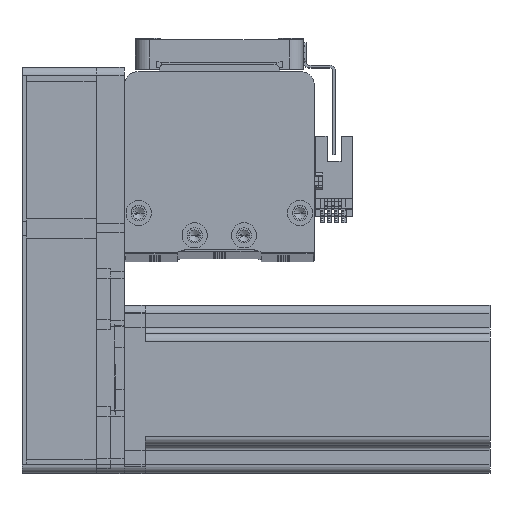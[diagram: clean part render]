
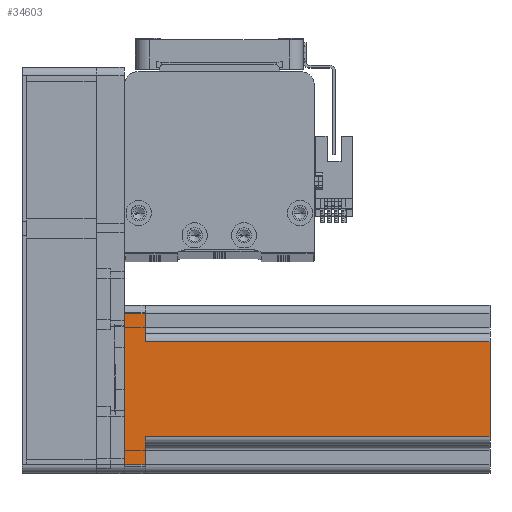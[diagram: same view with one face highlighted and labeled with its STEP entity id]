
A CAD part, top view. The second image highlights one B-rep face of the part: STEP entity #34603.
In plain terms, the highlighted planar face has unit normal (0, 0, 1) as drawn and (0, -1, 0) by its records, which use the part's own axes.
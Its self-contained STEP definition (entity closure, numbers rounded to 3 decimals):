
#228 = VECTOR ( 'NONE', #13810, 1000. ) ;
#503 = AXIS2_PLACEMENT_3D ( 'NONE', #20739, #49823, #24947 ) ;
#1489 = VERTEX_POINT ( 'NONE', #29872 ) ;
#1557 = LINE ( 'NONE', #26160, #228 ) ;
#1898 = EDGE_CURVE ( 'NONE', #30522, #23538, #22322, .T. ) ;
#3154 = ORIENTED_EDGE ( 'NONE', *, *, #1898, .T. ) ;
#5367 = EDGE_CURVE ( 'NONE', #23538, #10179, #46167, .T. ) ;
#6621 = EDGE_CURVE ( 'NONE', #10179, #21501, #23204, .T. ) ;
#7150 = CARTESIAN_POINT ( 'NONE',  ( -17., -30., 7.5 ) ) ;
#9034 = VECTOR ( 'NONE', #31657, 1000. ) ;
#10179 = VERTEX_POINT ( 'NONE', #36930 ) ;
#10858 = CARTESIAN_POINT ( 'NONE',  ( 17., -30., 130.7 ) ) ;
#11373 = EDGE_LOOP ( 'NONE', ( #25125, #21378, #27922, #3154, #45380, #21827, #12976, #45773 ) ) ;
#12122 = VECTOR ( 'NONE', #51561, 1000. ) ;
#12976 = ORIENTED_EDGE ( 'NONE', *, *, #27586, .T. ) ;
#13099 = CARTESIAN_POINT ( 'NONE',  ( 30., -30., 0. ) ) ;
#13810 = DIRECTION ( 'NONE',  ( 1., 0., 0. ) ) ;
#13936 = EDGE_CURVE ( 'NONE', #49610, #46291, #30014, .T. ) ;
#14266 = VECTOR ( 'NONE', #34191, 1000. ) ;
#16669 = CARTESIAN_POINT ( 'NONE',  ( -27., -30., 0. ) ) ;
#17151 = FACE_OUTER_BOUND ( 'NONE', #11373, .T. ) ;
#17634 = CARTESIAN_POINT ( 'NONE',  ( 27., -30., 7.5 ) ) ;
#18862 = LINE ( 'NONE', #40749, #50711 ) ;
#20739 = CARTESIAN_POINT ( 'NONE',  ( 30., -30., 130.7 ) ) ;
#21378 = ORIENTED_EDGE ( 'NONE', *, *, #49207, .T. ) ;
#21501 = VERTEX_POINT ( 'NONE', #17634 ) ;
#21827 = ORIENTED_EDGE ( 'NONE', *, *, #6621, .T. ) ;
#22322 = LINE ( 'NONE', #32718, #32076 ) ;
#23204 = LINE ( 'NONE', #26524, #12122 ) ;
#23305 = DIRECTION ( 'NONE',  ( 0., 0., 1. ) ) ;
#23538 = VERTEX_POINT ( 'NONE', #16669 ) ;
#24947 = DIRECTION ( 'NONE',  ( -1., 0., 0. ) ) ;
#25125 = ORIENTED_EDGE ( 'NONE', *, *, #38245, .F. ) ;
#26160 = CARTESIAN_POINT ( 'NONE',  ( -20., -30., 7.5 ) ) ;
#26524 = CARTESIAN_POINT ( 'NONE',  ( 27., -30., 130.7 ) ) ;
#27390 = VERTEX_POINT ( 'NONE', #7150 ) ;
#27586 = EDGE_CURVE ( 'NONE', #21501, #49610, #51661, .T. ) ;
#27922 = ORIENTED_EDGE ( 'NONE', *, *, #45641, .F. ) ;
#29591 = VECTOR ( 'NONE', #49815, 1000. ) ;
#29872 = CARTESIAN_POINT ( 'NONE',  ( -17., -30., 130.7 ) ) ;
#30014 = LINE ( 'NONE', #39823, #50773 ) ;
#30522 = VERTEX_POINT ( 'NONE', #44744 ) ;
#31657 = DIRECTION ( 'NONE',  ( 0., 0., -1. ) ) ;
#32076 = VECTOR ( 'NONE', #32206, 1000. ) ;
#32206 = DIRECTION ( 'NONE',  ( 0., 0., -1. ) ) ;
#32718 = CARTESIAN_POINT ( 'NONE',  ( -27., -30., 130.7 ) ) ;
#34191 = DIRECTION ( 'NONE',  ( 1., 0., 0. ) ) ;
#34603 = ADVANCED_FACE ( 'NONE', ( #17151 ), #41317, .F. ) ;
#36930 = CARTESIAN_POINT ( 'NONE',  ( 27., -30., 0. ) ) ;
#38245 = EDGE_CURVE ( 'NONE', #1489, #46291, #18862, .T. ) ;
#38885 = CARTESIAN_POINT ( 'NONE',  ( 17., -30., 7.5 ) ) ;
#39823 = CARTESIAN_POINT ( 'NONE',  ( 17., -30., 130.7 ) ) ;
#40749 = CARTESIAN_POINT ( 'NONE',  ( 30., -30., 130.7 ) ) ;
#41317 = PLANE ( 'NONE',  #503 ) ;
#43502 = LINE ( 'NONE', #44201, #9034 ) ;
#44201 = CARTESIAN_POINT ( 'NONE',  ( -17., -30., 130.7 ) ) ;
#44744 = CARTESIAN_POINT ( 'NONE',  ( -27., -30., 7.5 ) ) ;
#44916 = DIRECTION ( 'NONE',  ( 1., 0., 0. ) ) ;
#45380 = ORIENTED_EDGE ( 'NONE', *, *, #5367, .T. ) ;
#45641 = EDGE_CURVE ( 'NONE', #30522, #27390, #1557, .T. ) ;
#45773 = ORIENTED_EDGE ( 'NONE', *, *, #13936, .T. ) ;
#45857 = CARTESIAN_POINT ( 'NONE',  ( 20., -30., 7.5 ) ) ;
#46167 = LINE ( 'NONE', #13099, #14266 ) ;
#46291 = VERTEX_POINT ( 'NONE', #10858 ) ;
#49207 = EDGE_CURVE ( 'NONE', #1489, #27390, #43502, .T. ) ;
#49610 = VERTEX_POINT ( 'NONE', #38885 ) ;
#49815 = DIRECTION ( 'NONE',  ( -1., 0., 0. ) ) ;
#49823 = DIRECTION ( 'NONE',  ( 0., 1., 0. ) ) ;
#50711 = VECTOR ( 'NONE', #44916, 1000. ) ;
#50773 = VECTOR ( 'NONE', #23305, 1000. ) ;
#51561 = DIRECTION ( 'NONE',  ( 0., 0., 1. ) ) ;
#51661 = LINE ( 'NONE', #45857, #29591 ) ;
